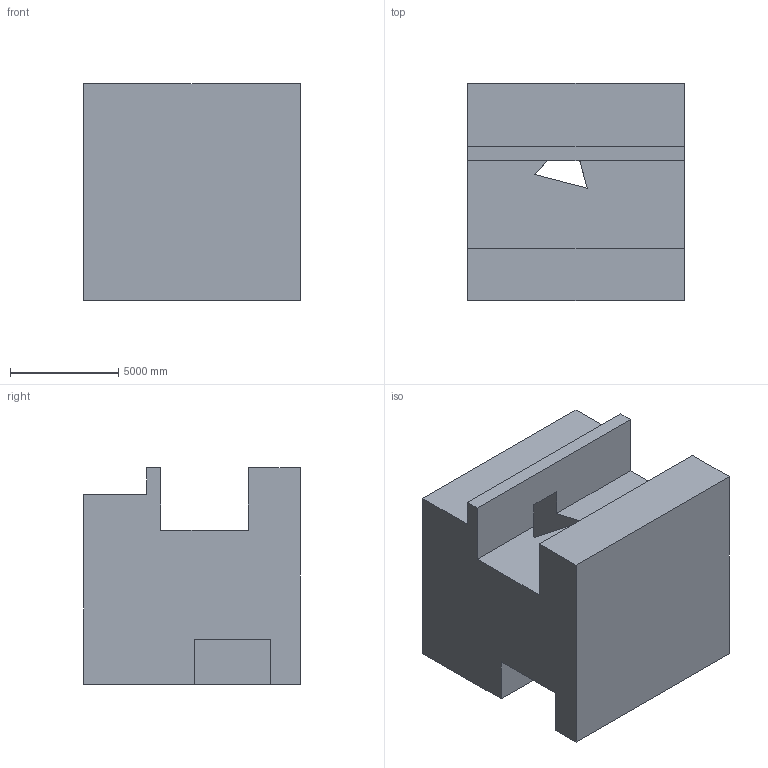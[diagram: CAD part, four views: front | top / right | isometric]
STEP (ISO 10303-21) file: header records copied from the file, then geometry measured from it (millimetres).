
FILE_DESCRIPTION (( 'STEP AP203' ), '1' );
FILE_NAME ('71.STEP', '2022-08-31T11:24:00', ( 'user' ), ( '' ), 'SwSTEP 2.0', 'SolidWorks 2021', '' );
FILE_SCHEMA (( 'CONFIG_CONTROL_DESIGN' ));
Length unit declared in the file: centimetre
Products named in the file (1): 71
Bounding box: 10000 x 10000 x 10000 mm (x, y, z)
Volume: 801617179383.6 mm3; surface area: 693118990.2 mm2
Topology: 1 solids, 1 shells, 20 faces, 57 edges, 38 vertices
Faces by surface type: plane 20
Entity records: 722 total; most frequent: CARTESIAN_POINT 116, ORIENTED_EDGE 114, DIRECTION 99, LINE 57, VECTOR 57, EDGE_CURVE 57, VERTEX_POINT 38, EDGE_LOOP 21
